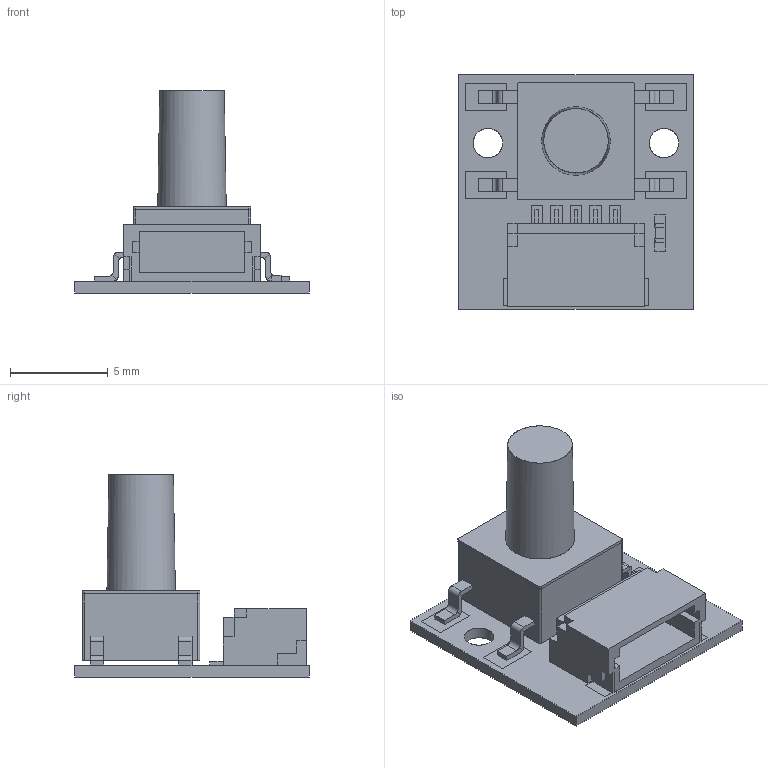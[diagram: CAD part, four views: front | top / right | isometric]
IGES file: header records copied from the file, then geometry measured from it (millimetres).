
Global section: file name: Filename.iges; native system: Open CASCADE 7.4; preprocessor: Open CASCADE IGES processor 7.4; date: 20200813.164600; units: millimetre
Bounding box: 12 x 12 x 10.33 mm (x, y, z)
Surface area: 1550 mm2 (no closed solid volume)
Topology: 0 solids, 0 shells, 560 faces, 2720 edges, 2708 vertices
Faces by surface type: plane 498, revolution 62
